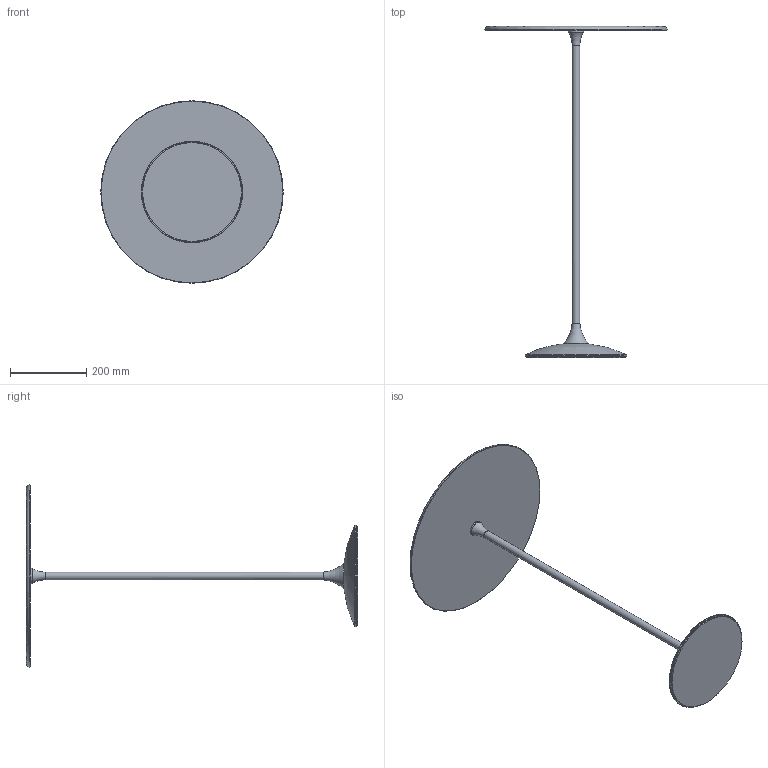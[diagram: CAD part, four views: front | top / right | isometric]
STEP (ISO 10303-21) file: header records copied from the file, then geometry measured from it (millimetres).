
FILE_DESCRIPTION((''),'2;1');
FILE_NAME('C:\AutodeskVault\AreaLavoro\Progetti\SoVeT Italia\2. Tavolini_Coffee tables\Tulip\Web file\Tulip Web\P4626.stp','2012-06-14T17:29:58',('Gianluca'),('So.Ve.T. s.r.l.'),'Autodesk Inventor 2013','Autodesk Inventor 2013','IL PROGETTO E'' DI ESCLUSIVA PROPRIETA'' DELLA SO.VE.T. srl. E'' VIETATA OGNI RIPRODUZIONE TOTALE O PARZIALE E QUALSIASI UTILIZZO NON AUTORIZZATO. ');
FILE_SCHEMA(('AUTOMOTIVE_DESIGN { 1 0 10303 214 1 1 1 1 }'));
Length unit declared in the file: millimetre
Products named in the file (1): P4626 LCTR Contorno semplificato
Bounding box: 480 x 870.45 x 480 mm (x, y, z)
Volume: 3363510.7 mm3; surface area: 542904.5 mm2
Topology: 1 solids, 1 shells, 26 faces, 51 edges, 30 vertices
Faces by surface type: cone 7, torus 7, plane 6, cylinder 5, bspline 1
Full cylindrical faces by diameter (mm): 20 x1, 40 x1, 60 x1, 260 x1, 267 x1
Entity records: 614 total; most frequent: CARTESIAN_POINT 102, DIRECTION 102, AXIS2_PLACEMENT_3D 51, ORIENTED_EDGE 50, EDGE_LOOP 50, STYLED_ITEM 27, FACE_OUTER_BOUND 26, ADVANCED_FACE 26
